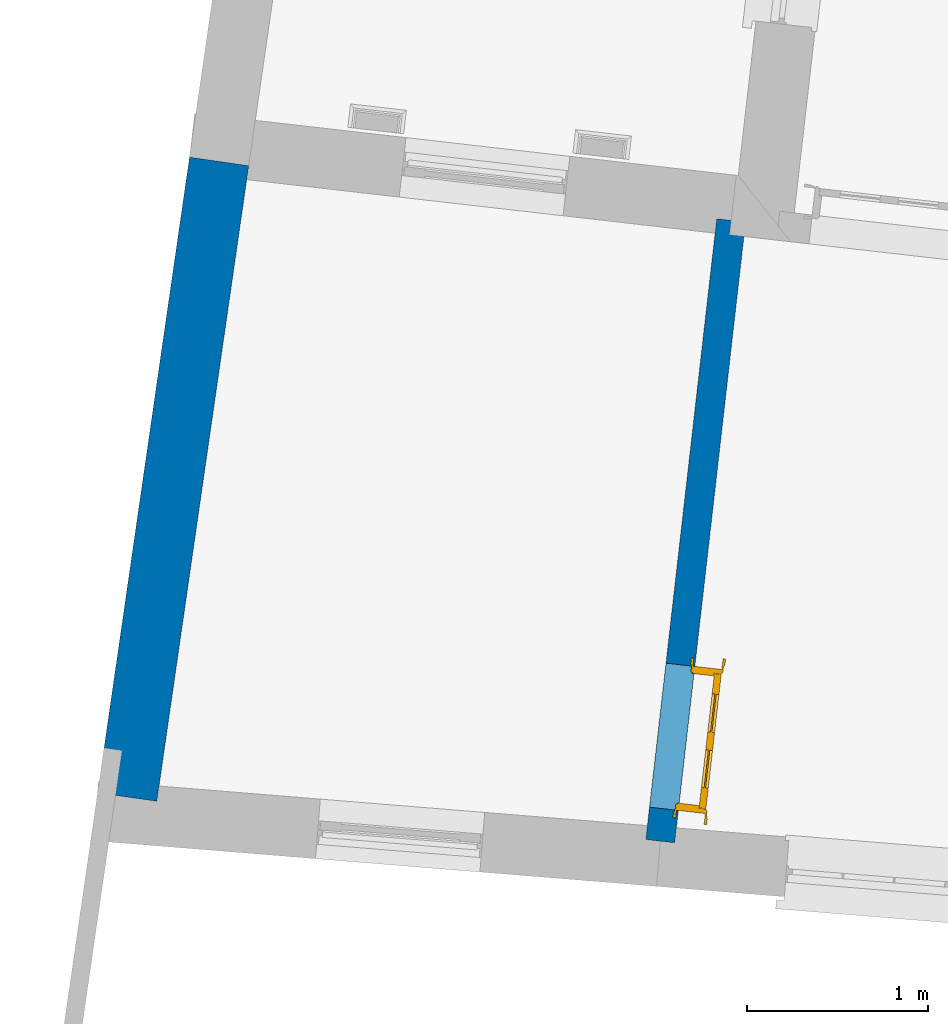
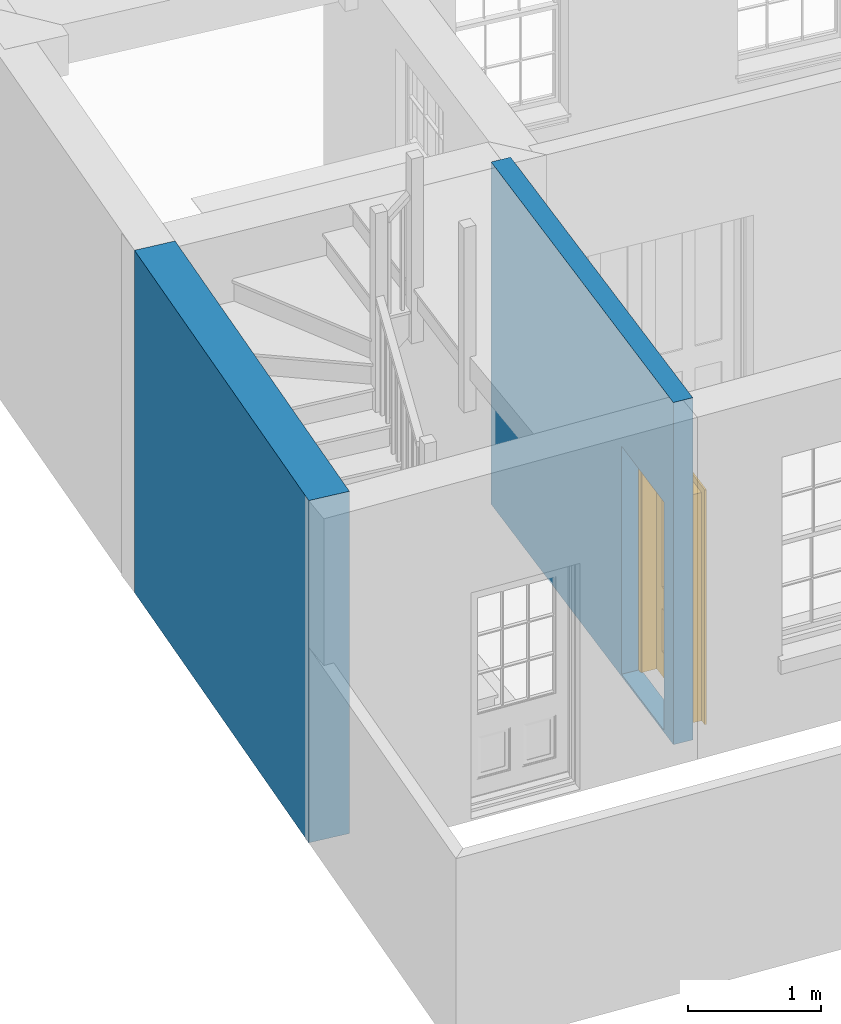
# One storey, part 4 of 8: 2 walls, 1 door, 1 opening.
"""IFC4 building model written with IfcOpenShell, lengths in metres."""

import ifcopenshell
import ifcopenshell.guid

model = None  # the IFC model being written
_history = None  # IfcOwnerHistory: only IFC2X3 demands one
_inside = {}  # id of a spatial element -> (the spatial element, [elements in it])
_under = {}  # id of a project, library or spatial element -> (it, [spatial elements below it])
_declared = {}  # id of a project -> (the project, [libraries it declares])
_typed = {}  # id of a type object -> (the type object, [elements of that type])
_made_of = {}  # id of a material, layer set ... -> (it, [elements and type objects made of it])


def new_model(schema):
    """Start an empty IFC model of exactly this schema.

    Asked for "IFC4X3", IfcOpenShell would pick the latest addendum, in which some entities
    have other attributes; the version numbers below select the first issue.
    IFC2X3 requires an IfcOwnerHistory on every rooted entity: one is made here for all.
    """
    global model, _history
    if schema == "IFC4X3":
        model = ifcopenshell.file(schema_version=(4, 3, 0, 0))
    else:
        model = ifcopenshell.file(schema=schema)
    _inside.clear()
    _under.clear()
    _declared.clear()
    _typed.clear()
    _made_of.clear()
    _history = None
    if model.schema == "IFC2X3":
        org = make("IfcOrganization", Name="unknown")
        user = make(
            "IfcPersonAndOrganization",
            ThePerson=make("IfcPerson", FamilyName="unknown"),
            TheOrganization=org,
        )
        app = make(
            "IfcApplication",
            ApplicationDeveloper=org,
            Version="unknown",
            ApplicationFullName="unknown",
            ApplicationIdentifier="unknown",
        )
        _history = make(
            "IfcOwnerHistory",
            OwningUser=user,
            OwningApplication=app,
            ChangeAction="ADDED",
            CreationDate=0,
        )
    return model


def make(cls, **values):
    """One entity of the class cls with the attributes given. An attribute that is None is left unset."""
    return model.create_entity(
        cls, **{name: value for name, value in values.items() if value is not None}
    )


def rooted(cls, **values):
    """An entity with a GlobalId (a new one), such as an element, a storey or a relation."""
    return make(cls, GlobalId=ifcopenshell.guid.new(), OwnerHistory=_history, **values)


def si_unit(unit_type, name, prefix=None):
    """IfcSIUnit, for example si_unit("LENGTHUNIT", "METRE", prefix="MILLI")."""
    return make("IfcSIUnit", UnitType=unit_type, Prefix=prefix, Name=name)


def assignment(units):
    """IfcUnitAssignment: the units of a project."""
    return None if units is None else make("IfcUnitAssignment", Units=units)


def point(xyz):
    """IfcCartesianPoint."""
    return None if xyz is None else make("IfcCartesianPoint", Coordinates=xyz)


def direction(xyz):
    """IfcDirection."""
    return None if xyz is None else make("IfcDirection", DirectionRatios=xyz)


def frame(location, z_axis=None, x_axis=None):
    """IfcAxis2Placement3D, a coordinate frame: its origin and axes. An axis left out is left unset."""
    return make(
        "IfcAxis2Placement3D",
        Location=point(location),
        Axis=direction(z_axis),
        RefDirection=direction(x_axis),
    )


def origin():
    """The frame at (0, 0, 0) with its axes left unset."""
    return frame((0.0, 0.0, 0.0))


def origin_with_axes():
    """The frame at (0, 0, 0) with the z axis (0, 0, 1) and the x axis (1, 0, 0) written out."""
    return frame((0.0, 0.0, 0.0), z_axis=(0.0, 0.0, 1.0), x_axis=(1.0, 0.0, 0.0))


def place(relative_to, where):
    """IfcLocalPlacement: puts the frame where relative to a parent placement (None: the world)."""
    return make(
        "IfcLocalPlacement", PlacementRelTo=relative_to, RelativePlacement=where
    )


def context(
    kind, dimensions, precision=None, world=None, true_north=None, identifier=None
):
    """IfcGeometricRepresentationContext, for example the 3D "Model" context."""
    return make(
        "IfcGeometricRepresentationContext",
        ContextIdentifier=identifier,
        ContextType=kind,
        CoordinateSpaceDimension=dimensions,
        Precision=precision,
        WorldCoordinateSystem=world,
        TrueNorth=true_north,
    )


def subcontext(parent, identifier, kind, view, scale=None):
    """IfcGeometricRepresentationSubContext, for example "Body" below "Model"."""
    return make(
        "IfcGeometricRepresentationSubContext",
        ContextIdentifier=identifier,
        ContextType=kind,
        ParentContext=parent,
        TargetScale=scale,
        TargetView=view,
    )


def project(units=None, contexts=None):
    """IfcProject with its units and contexts."""
    return rooted(
        "IfcProject",
        Name="project",
        RepresentationContexts=contexts,
        UnitsInContext=assignment(units),
    )


def spatial(cls, under=None, at=None, **own):
    """A site, building, storey or space (cls), placed at a placement, below another one or the project."""
    s = rooted(cls, ObjectPlacement=at, **own)
    if under is not None:
        _under.setdefault(under.id(), (under, []))[1].append(s)
    return s


def polyline(points):
    """IfcPolyline through the points."""
    return make("IfcPolyline", Points=[point(p) for p in points])


def outline(outer, holes=None, kind="AREA"):
    """IfcArbitraryClosedProfileDef: a profile drawn as a closed curve; with holes, ...WithVoids."""
    if holes is None:
        return make("IfcArbitraryClosedProfileDef", ProfileType=kind, OuterCurve=outer)
    return make(
        "IfcArbitraryProfileDefWithVoids",
        ProfileType=kind,
        OuterCurve=outer,
        InnerCurves=holes,
    )


def extrude(swept, where, along, depth):
    """IfcExtrudedAreaSolid: the profile swept, set in the frame where, extruded along a direction by depth."""
    return make(
        "IfcExtrudedAreaSolid",
        SweptArea=swept,
        Position=where,
        ExtrudedDirection=direction(along),
        Depth=depth,
    )


def faces_of(points, faces, orient=None, outer=None):
    """IfcFace entities. A face is a list of loops; a loop is a list of indices into points, from 0.

    orient and outer hold one flag for each loop. By default every Orientation is true, the
    first loop of a face is its IfcFaceOuterBound and the others are IfcFaceBound.
    """
    made = []
    for i, loops in enumerate(faces):
        bounds = []
        for j, loop in enumerate(loops):
            is_outer = j == 0 if outer is None else outer[i][j]
            bounds.append(
                make(
                    "IfcFaceOuterBound" if is_outer else "IfcFaceBound",
                    Bound=make("IfcPolyLoop", Polygon=[points[k] for k in loop]),
                    Orientation=True if orient is None else orient[i][j],
                )
            )
        made.append(make("IfcFace", Bounds=bounds))
    return made


def faceted_brep(points, faces, orient=None, outer=None, voids=None):
    """IfcFacetedBrep: a solid bounded by flat faces; with voids (closed shells), ...WithVoids."""
    shared = [point(p) for p in points]
    hull = make("IfcClosedShell", CfsFaces=faces_of(shared, faces, orient, outer))
    if voids is None:
        return make("IfcFacetedBrep", Outer=hull)
    return make(
        "IfcFacetedBrepWithVoids",
        Outer=hull,
        Voids=[
            make(cls, CfsFaces=faces_of(shared, fs, o, b)) for cls, fs, o, b in voids
        ],
    )


def shape(context_of_items, identifier, shape_type, items):
    """IfcShapeRepresentation: the items that make up one representation, for example the "Body"."""
    return make(
        "IfcShapeRepresentation",
        ContextOfItems=context_of_items,
        RepresentationIdentifier=identifier,
        RepresentationType=shape_type,
        Items=items,
    )


def source(mapping_origin, context_of_items, identifier, shape_type, items):
    """IfcRepresentationMap: a shape defined once, which mapped items show again and again."""
    return make(
        "IfcRepresentationMap",
        MappingOrigin=mapping_origin,
        MappedRepresentation=shape(context_of_items, identifier, shape_type, items),
    )


def transform(
    local_origin,
    x_axis=None,
    y_axis=None,
    z_axis=None,
    scale=None,
    scale2=None,
    scale3=None,
    uniform=True,
):
    """IfcCartesianTransformationOperator3D, or its non-uniform kind. x_axis, y_axis, z_axis: its Axis1, 2, 3."""
    if uniform:
        return make(
            "IfcCartesianTransformationOperator3D",
            Axis1=direction(x_axis),
            Axis2=direction(y_axis),
            LocalOrigin=point(local_origin),
            Scale=scale,
            Axis3=direction(z_axis),
        )
    return make(
        "IfcCartesianTransformationOperator3DnonUniform",
        Axis1=direction(x_axis),
        Axis2=direction(y_axis),
        LocalOrigin=point(local_origin),
        Scale=scale,
        Axis3=direction(z_axis),
        Scale2=scale2,
        Scale3=scale3,
    )


def mapped(mapping_source, mapping_target):
    """IfcMappedItem: shows the shape of a source again, moved by a transform."""
    return make(
        "IfcMappedItem", MappingSource=mapping_source, MappingTarget=mapping_target
    )


def material(Name=None, Category=None):
    """IfcMaterial."""
    return make("IfcMaterial", Name=Name, Category=Category)


def layer(
    of_material, thickness, ventilated=None, Name=None, Category=None, Priority=None
):
    """IfcMaterialLayer: one layer of a wall or slab, of a material (None: an air gap)."""
    return make(
        "IfcMaterialLayer",
        Material=of_material,
        LayerThickness=thickness,
        IsVentilated=ventilated,
        Name=Name,
        Category=Category,
        Priority=Priority,
    )


def layer_set(layers, Name=None):
    """IfcMaterialLayerSet."""
    return make("IfcMaterialLayerSet", MaterialLayers=layers, LayerSetName=Name)


def layer_usage(for_layer_set, set_direction, sense, offset, extent=None):
    """IfcMaterialLayerSetUsage: how a layer set lies in its element."""
    return make(
        "IfcMaterialLayerSetUsage",
        ForLayerSet=for_layer_set,
        LayerSetDirection=set_direction,
        DirectionSense=sense,
        OffsetFromReferenceLine=offset,
        ReferenceExtent=extent,
    )


def made_of(thing, what):
    """Note that an element or type object is made of a material, layer set ...; save() writes the relation."""
    if what is not None:
        _made_of.setdefault(what.id(), (what, []))[1].append(thing)
    return thing


def type_object(cls, material=None, **own):
    """A type object (cls), such as IfcWallType, which elements share."""
    return made_of(rooted(cls, **own), material)


def type_shapes(of_type, sources):
    """Give a type object the sources (RepresentationMaps) that its elements show as mapped items."""
    of_type.RepresentationMaps = sources


def element(
    cls,
    number,
    at=None,
    inside=None,
    cuts=None,
    type_object=None,
    material=None,
    context=None,
    identifier="Body",
    shape_type=None,
    held_by="IfcProductDefinitionShape",
    body=None,
    shapes=None,
    **own,
):
    """One element of the class cls, such as IfcWall. Its Tag is "e" and its number.

    at: its placement. inside: the storey or other place that contains it. cuts: it is an
    opening in that element (IfcRelVoidsElement). A single representation is given by context,
    identifier, shape_type and body (its items); several are given by shapes. held_by: the class
    of the entity that holds the representations. save() writes the other relations.
    """
    e = rooted(cls, Tag="e%d" % number, ObjectPlacement=at, **own)
    if body is not None:
        shapes = [shape(context, identifier, shape_type, body)]
    if shapes is not None:
        e.Representation = make(held_by, Representations=shapes)
    if inside is not None:
        _inside.setdefault(inside.id(), (inside, []))[1].append(e)
    if cuts is not None:
        rooted(
            "IfcRelVoidsElement", RelatingBuildingElement=cuts, RelatedOpeningElement=e
        )
    if type_object is not None:
        _typed.setdefault(type_object.id(), (type_object, []))[1].append(e)
    return made_of(e, material)


def fill(opening, filler):
    """IfcRelFillsElement: the door or window that sits in an opening."""
    return rooted(
        "IfcRelFillsElement",
        RelatingOpeningElement=opening,
        RelatedBuildingElement=filler,
    )


def aggregate(whole, parts):
    """IfcRelAggregates: a whole, such as a stair, and the parts it consists of."""
    return rooted("IfcRelAggregates", RelatingObject=whole, RelatedObjects=parts)


def save(model, path):
    """Write the relations noted so far, then the file.

    IfcRelAggregates (storeys below a building ...), IfcRelContainedInSpatialStructure (elements
    in a storey), IfcRelDefinesByType, IfcRelAssociatesMaterial and IfcRelDeclares: one each for
    every whole, place, type object, material and project.
    """
    for whole, parts in _under.values():
        aggregate(whole, parts)
    for where, things in _inside.values():
        rooted(
            "IfcRelContainedInSpatialStructure",
            RelatedElements=things,
            RelatingStructure=where,
        )
    for kind, things in _typed.values():
        rooted("IfcRelDefinesByType", RelatedObjects=things, RelatingType=kind)
    for what, things in _made_of.values():
        rooted("IfcRelAssociatesMaterial", RelatedObjects=things, RelatingMaterial=what)
    for by, libraries in _declared.values():
        rooted("IfcRelDeclares", RelatingContext=by, RelatedDefinitions=libraries)
    model.write(path)


model = new_model("IFC4")

# Units and contexts
model_context = context("Model", 3, world=origin_with_axes())
body_context = subcontext(model_context, "Body", "Model", "MODEL_VIEW")
ifc_project = project(units=[si_unit("PLANEANGLEUNIT", "RADIAN"), si_unit("MASSUNIT", "GRAM", prefix="KILO"), si_unit("FORCEUNIT", "NEWTON", prefix="KILO"), si_unit("LENGTHUNIT", "METRE"), si_unit("AREAUNIT", "SQUARE_METRE"), si_unit("VOLUMEUNIT", "CUBIC_METRE")], contexts=[model_context, model_context])

# Sites, building, storey
site_1_placement = place(None, origin_with_axes())
site_1 = spatial("IfcSite", under=ifc_project, at=site_1_placement, Name="Tamar")
site_2_placement = place(site_1_placement, origin_with_axes())
site_2 = spatial("IfcSite", under=site_1, at=site_2_placement, Name="Site plot-31", CompositionType="ELEMENT")
building_placement = place(None, origin_with_axes())
building = spatial("IfcBuilding", under=site_2, at=building_placement, Name="Building plot-31", CompositionType="ELEMENT")
storey_placement = place(None, frame((0.0, 0.0, 25.5), z_axis=(0.0, 0.0, 1.0), x_axis=(1.0, 0.0, 0.0)))
storey = spatial("IfcBuildingStorey", under=building, at=storey_placement, Name="plot-31 0", CompositionType="ELEMENT", Elevation=25.5)

# Wall
ifc_material_1 = material(Name="Masonry")
ifc_layer_1 = layer(ifc_material_1, 0.33, ventilated=False)
ifc_layer_set_1 = layer_set([ifc_layer_1], Name="party_0.08_0.25")
ifc_layer_usage_1 = layer_usage(ifc_layer_set_1, "AXIS2", "POSITIVE", -0.25)
wall_type_1 = type_object("IfcWallType", Name="party_0.08_0.25", PredefinedType="SOLIDWALL", material=ifc_layer_set_1)
wall_1_placement = place(storey_placement, frame((292.966784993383, 261.392838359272, 0.0), z_axis=(0.0, 0.0, 1.0), x_axis=(-0.143119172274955, -0.989705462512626, 0.0)))
element("IfcWall", 1, at=wall_1_placement, inside=storey, type_object=wall_type_1, material=ifc_layer_usage_1, Name="party", context=body_context, shape_type="SweptSolid", body=[
    extrude(outline(polyline([(1.44803760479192e-14, 0.0800000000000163), (-4.09251710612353e-15, -0.249999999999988), (3.54380607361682, -0.249999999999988), (3.54380607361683, 0.0800000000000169), (1.44803760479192e-14, 0.0800000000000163)])), origin_with_axes(), (0.0, 0.0, 1.0), 3.15),
])

# Wall, opening, door
ifc_material_2 = material(Name="Masonry")
ifc_layer_2 = layer(ifc_material_2, 0.16, ventilated=False)
ifc_layer_set_2 = layer_set([ifc_layer_2], Name="interior_0.08_0.08")
ifc_layer_usage_2 = layer_usage(ifc_layer_set_2, "AXIS2", "POSITIVE", -0.08)
wall_type_2 = type_object("IfcWallType", Name="interior_0.08_0.08", PredefinedType="SOLIDWALL", material=ifc_layer_set_2)
wall_2_placement = place(storey_placement, frame((295.708183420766, 261.079675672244, 0.0), z_axis=(0.0, 0.0, 1.0), x_axis=(-0.113496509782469, -0.993538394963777, 0.0)))
wall_2 = element("IfcWall", 2, at=wall_2_placement, inside=storey, type_object=wall_type_2, material=ifc_layer_usage_2, Name="interior", context=body_context, shape_type="SweptSolid", body=[
    extrude(outline(polyline([(9.93290253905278e-15, 0.0800000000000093), (-9.97822685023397e-15, -0.0800000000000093), (3.44802178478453, -0.0800000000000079), (3.44802178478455, 0.0800000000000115), (9.93290253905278e-15, 0.0800000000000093)])), origin_with_axes(), (0.0, 0.0, 1.0), 3.15),
])
opening_placement = place(wall_2_placement, frame((2.4680217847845, 0.0, 0.0199999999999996)))
opening = element("IfcOpeningElement", 3, at=opening_placement, cuts=wall_2, Name="My Opening", ObjectType="Opening", context=body_context, shape_type="SweptSolid", body=[
    extrude(outline(polyline([(0.0, -0.100000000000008), (0.800000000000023, -0.100000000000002), (0.80000000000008, 1.09999999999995), (5.55111512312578e-14, 1.09999999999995), (0.0, -0.100000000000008)])), origin_with_axes(), (0.0, 0.0, 1.0), 2.1),
])
door_type = type_object("IfcDoorType", Name="door_inside", OperationType="SINGLE_SWING_LEFT", PredefinedType="NOTDEFINED")
shared_shape = source(origin(), body_context, "Body", "Brep", [
    faceted_brep([(0.773, 0.33, 1.895), (0.66, 0.33, 1.895), (0.66, 0.33, 2.073), (0.773, 0.33, 2.073), (0.773, 0.33, 0.82), (0.66, 0.33, 0.82), (0.45, 0.33, 1.895), (0.45, 0.33, 2.073), (0.773, 0.33, 0.62), (0.66, 0.33, 0.62), (0.66, 0.315, 0.82), (0.66, 0.315, 1.895), (0.45, 0.315, 1.895), (0.35, 0.33, 1.895), (0.35, 0.33, 2.073), (0.773, 0.33, 0.225), (0.66, 0.33, 0.225), (0.45, 0.33, 0.62), (0.45, 0.33, 0.82), (0.45, 0.315, 0.82), (0.35, 0.33, 0.82), (0.14, 0.33, 2.073), (0.14, 0.33, 1.895), (0.773, 0.33, 0.0), (0.66, 0.33, 0.0), (0.66, 0.315, 0.225), (0.66, 0.315, 0.62), (0.45, 0.315, 0.62), (0.35, 0.33, 0.62), (0.35, 0.315, 0.82), (0.35, 0.315, 1.895), (0.14, 0.315, 1.895), (0.027, 0.33, 2.073), (0.027, 0.33, 1.895), (0.773, 0.292, 0.0), (0.66, 0.292, 0.0), (0.45, 0.33, 0.0), (0.45, 0.33, 0.225), (0.45, 0.315, 0.225), (0.35, 0.33, 0.225), (0.14, 0.33, 0.82), (0.14, 0.33, 0.62), (0.14, 0.315, 0.82), (0.027, 0.33, 0.82), (0.773, 0.292, 0.225), (0.66, 0.292, 0.225), (0.45, 0.292, 0.0), (0.35, 0.33, 0.0), (0.35, 0.315, 0.225), (0.35, 0.315, 0.62), (0.14, 0.315, 0.62), (0.027, 0.33, 0.62), (0.773, 0.292, 0.62), (0.66, 0.292, 0.62), (0.45, 0.292, 0.225), (0.35, 0.292, 0.0), (0.14, 0.33, 0.225), (0.14, 0.33, 0.0), (0.14, 0.315, 0.225), (0.027, 0.33, 0.225), (0.773, 0.292, 0.82), (0.66, 0.292, 0.82), (0.66, 0.307, 0.62), (0.66, 0.307, 0.225), (0.45, 0.307, 0.225), (0.35, 0.292, 0.225), (0.14, 0.292, 0.0), (0.027, 0.33, 0.0), (0.773, 0.292, 1.895), (0.66, 0.292, 1.895), (0.45, 0.292, 0.62), (0.45, 0.292, 0.82), (0.45, 0.307, 0.62), (0.35, 0.292, 0.62), (0.14, 0.292, 0.225), (0.027, 0.292, 0.0), (0.773, 0.292, 2.073), (0.66, 0.292, 2.073), (0.66, 0.307, 1.895), (0.66, 0.307, 0.82), (0.45, 0.307, 0.82), (0.35, 0.292, 0.82), (0.35, 0.307, 0.62), (0.35, 0.307, 0.225), (0.14, 0.307, 0.225), (0.027, 0.292, 0.225), (0.45, 0.292, 1.895), (0.45, 0.292, 2.073), (0.45, 0.307, 1.895), (0.35, 0.292, 1.895), (0.14, 0.292, 0.82), (0.14, 0.292, 0.62), (0.14, 0.307, 0.62), (0.027, 0.292, 0.62), (0.35, 0.292, 2.073), (0.35, 0.307, 1.895), (0.35, 0.307, 0.82), (0.14, 0.307, 0.82), (0.027, 0.292, 0.82), (0.14, 0.292, 2.073), (0.14, 0.292, 1.895), (0.14, 0.307, 1.895), (0.027, 0.292, 1.895), (0.027, 0.292, 2.073), (0.02, 0.335, 0.0), (0.005, 0.34, 0.0), (0.005, 0.34, 2.095), (0.02, 0.335, 2.08), (0.02, 0.33, 0.0), (0.0, 0.335, 0.0), (0.0, 0.335, 2.1), (0.795, 0.34, 2.095), (0.78, 0.335, 2.08), (0.02, 0.33, 2.08), (0.0, 0.33, 0.0), (-0.032, 0.345, 0.0), (-0.032, 0.345, 2.132), (0.8, 0.335, 2.1), (0.795, 0.34, 0.0), (0.78, 0.335, 0.0), (0.78, 0.33, 2.08), (0.04, 0.29, 0.0), (0.025, 0.29, 0.0), (0.025, 0.29, 2.075), (0.04, 0.29, 2.06), (-0.04, 0.34, 0.0), (-0.04, 0.34, 2.14), (0.832, 0.345, 2.132), (0.8, 0.335, 0.0), (0.78, 0.33, 0.0), (0.8, 0.33, 0.0), (0.86, 0.33, 0.0), (0.86, 0.33, 2.16), (0.8, 0.33, 2.1), (-0.06, 0.33, 2.16), (0.0, 0.33, 2.1), (-0.06, 0.33, 0.0), (-0.04, 0.345, 0.0), (-0.04, 0.345, 2.14), (0.84, 0.34, 2.14), (0.832, 0.345, 0.0), (0.84, 0.34, 0.0), (0.86, 0.345, 0.0), (0.86, 0.345, 2.16), (-0.06, 0.345, 2.16), (-0.06, 0.345, 0.0), (0.84, 0.345, 0.0), (0.84, 0.345, 2.14), (-0.025, 0.155, 0.0), (-0.025, 0.16, 0.0), (-0.025, 0.16, 2.125), (-0.025, 0.155, 2.125), (-0.017, 0.155, 0.0), (-0.017, 0.155, 2.117), (0.825, 0.16, 2.125), (0.825, 0.155, 2.125), (0.825, 0.155, 0.0), (0.845, 0.155, 0.0), (-0.045, 0.155, 2.145), (-0.045, 0.155, 0.0), (0.845, 0.155, 2.145), (0.015, 0.165, 0.0), (0.015, 0.165, 2.085), (0.817, 0.155, 2.117), (0.825, 0.16, 0.0), (0.845, 0.17, 0.0), (0.845, 0.17, 2.145), (-0.045, 0.17, 2.145), (-0.045, 0.17, 0.0), (0.02, 0.16, 0.0), (0.02, 0.16, 2.08), (0.785, 0.165, 2.085), (0.817, 0.155, 0.0), (0.8, 0.17, 0.0), (0.8, 0.17, 2.1), (0.0, 0.17, 2.1), (0.0, 0.17, 0.0), (0.035, 0.165, 0.0), (0.035, 0.165, 2.065), (0.78, 0.16, 2.08), (0.785, 0.165, 0.0), (0.775, 0.29, 2.075), (0.76, 0.29, 2.06), (0.035, 0.17, 2.065), (0.035, 0.17, 0.0), (0.765, 0.165, 2.065), (0.78, 0.16, 0.0), (0.765, 0.17, 0.0), (0.765, 0.17, 2.065), (0.765, 0.165, 0.0), (0.04, 0.17, 2.06), (0.04, 0.17, 0.0), (0.76, 0.17, 2.06), (0.76, 0.17, 0.0), (0.76, 0.29, 0.0), (0.775, 0.29, 0.0), (0.025, 0.33, 0.0), (0.025, 0.33, 2.075), (0.775, 0.33, 0.0), (0.775, 0.33, 2.075)], [[[0, 1, 2, 3]], [[1, 0, 4, 5]], [[1, 6, 7, 2]], [[8, 9, 5, 4]], [[1, 5, 10, 11]], [[6, 1, 11, 12]], [[6, 13, 14, 7]], [[15, 16, 9, 8]], [[9, 17, 18, 5]], [[5, 18, 19, 10]], [[10, 19, 12, 11]], [[18, 6, 12, 19]], [[18, 20, 13, 6]], [[21, 14, 13, 22]], [[23, 24, 16, 15]], [[9, 16, 25, 26]], [[17, 9, 26, 27]], [[17, 28, 20, 18]], [[13, 20, 29, 30]], [[22, 13, 30, 31]], [[32, 21, 22, 33]], [[34, 35, 24, 23]], [[24, 36, 37, 16]], [[16, 37, 38, 25]], [[25, 38, 27, 26]], [[37, 17, 27, 38]], [[37, 39, 28, 17]], [[40, 20, 28, 41]], [[20, 40, 42, 29]], [[31, 30, 29, 42]], [[40, 22, 31, 42]], [[33, 22, 40, 43]], [[35, 34, 44, 45]], [[35, 46, 36, 24]], [[36, 47, 39, 37]], [[28, 39, 48, 49]], [[41, 28, 49, 50]], [[43, 40, 41, 51]], [[45, 44, 52, 53]], [[46, 35, 45, 54]], [[46, 55, 47, 36]], [[56, 39, 47, 57]], [[39, 56, 58, 48]], [[50, 49, 48, 58]], [[56, 41, 50, 58]], [[51, 41, 56, 59]], [[53, 52, 60, 61]], [[45, 53, 62, 63]], [[54, 45, 63, 64]], [[55, 46, 54, 65]], [[55, 66, 57, 47]], [[59, 56, 57, 67]], [[61, 60, 68, 69]], [[70, 53, 61, 71]], [[53, 70, 72, 62]], [[72, 64, 63, 62]], [[70, 54, 64, 72]], [[65, 54, 70, 73]], [[65, 74, 66, 55]], [[67, 57, 66, 75]], [[69, 68, 76, 77]], [[61, 69, 78, 79]], [[71, 61, 79, 80]], [[73, 70, 71, 81]], [[65, 73, 82, 83]], [[74, 65, 83, 84]], [[74, 85, 75, 66]], [[86, 69, 77, 87]], [[69, 86, 88, 78]], [[88, 80, 79, 78]], [[86, 71, 80, 88]], [[81, 71, 86, 89]], [[73, 81, 90, 91]], [[73, 91, 92, 82]], [[83, 82, 92, 84]], [[91, 74, 84, 92]], [[91, 93, 85, 74]], [[89, 86, 87, 94]], [[81, 89, 95, 96]], [[90, 81, 96, 97]], [[90, 98, 93, 91]], [[94, 99, 100, 89]], [[89, 100, 101, 95]], [[101, 97, 96, 95]], [[100, 90, 97, 101]], [[100, 102, 98, 90]], [[99, 103, 102, 100]], [[32, 103, 99, 21]], [[102, 103, 32, 33]], [[98, 102, 33, 43]], [[21, 99, 94, 14]], [[94, 87, 7, 14]], [[7, 87, 77, 2]], [[76, 3, 2, 77]], [[43, 51, 93, 98]], [[51, 59, 85, 93]], [[67, 75, 85, 59]], [[34, 23, 15, 44]], [[44, 15, 8, 52]], [[52, 8, 4, 60]], [[0, 68, 60, 4]], [[0, 3, 76, 68]], [[104, 105, 106, 107]], [[104, 108, 109, 105]], [[105, 109, 110, 106]], [[107, 106, 111, 112]], [[107, 113, 108, 104]], [[114, 109, 108]], [[109, 115, 116, 110]], [[106, 110, 117, 111]], [[112, 111, 118, 119]], [[113, 107, 112, 120]], [[121, 122, 123, 124]], [[115, 109, 114, 125]], [[115, 125, 126, 116]], [[110, 116, 127, 117]], [[111, 117, 128, 118]], [[118, 128, 129, 119]], [[120, 112, 119, 129]], [[130, 129, 128]], [[130, 131, 132, 133]], [[133, 132, 134, 135]], [[135, 134, 136, 114]], [[136, 125, 114]], [[125, 137, 138, 126]], [[116, 126, 139, 127]], [[117, 127, 140, 128]], [[141, 130, 128, 140]], [[131, 130, 141]], [[131, 142, 143, 132]], [[132, 143, 144, 134]], [[134, 144, 145, 136]], [[137, 125, 136, 145]], [[143, 142, 146]], [[143, 146, 147]], [[137, 145, 144]], [[143, 147, 138]], [[138, 137, 144]], [[143, 138, 144]], [[126, 138, 147, 139]], [[127, 139, 141, 140]], [[142, 131, 141, 146]], [[139, 147, 146, 141]], [[148, 149, 150, 151]], [[149, 152, 153, 150]], [[151, 150, 154, 155]], [[155, 156, 157]], [[158, 159, 148]], [[158, 148, 151]], [[155, 157, 160]], [[158, 151, 155]], [[155, 160, 158]], [[152, 161, 162, 153]], [[150, 153, 163, 154]], [[155, 154, 164, 156]], [[156, 164, 165, 157]], [[157, 165, 166, 160]], [[160, 166, 167, 158]], [[158, 167, 168, 159]], [[161, 169, 170, 162]], [[153, 162, 171, 163]], [[154, 163, 172, 164]], [[165, 164, 173]], [[165, 173, 174, 166]], [[166, 174, 175, 167]], [[167, 175, 176, 168]], [[169, 177, 178, 170]], [[162, 170, 179, 171]], [[163, 171, 180, 172]], [[172, 180, 173, 164]], [[124, 123, 181, 182]], [[183, 178, 177, 184]], [[170, 178, 185, 179]], [[171, 179, 186, 180]], [[187, 173, 180]], [[185, 188, 187, 189]], [[188, 185, 178, 183]], [[179, 185, 189, 186]], [[189, 187, 180, 186]], [[190, 183, 184, 191]], [[192, 188, 183, 190]], [[191, 184, 122, 121]], [[124, 190, 191, 121]], [[193, 187, 188, 192]], [[182, 192, 190, 124]], [[184, 176, 122]], [[194, 195, 187, 193]], [[192, 182, 194, 193]], [[161, 176, 184]], [[114, 108, 122, 176]], [[173, 187, 195]], [[152, 149, 176, 161]], [[169, 161, 184, 177]], [[196, 122, 108]], [[176, 175, 135, 114]], [[173, 195, 129, 130]], [[176, 149, 168]], [[123, 122, 196, 197]], [[196, 108, 113, 197]], [[175, 174, 133, 135]], [[198, 129, 195]], [[133, 174, 173, 130]], [[159, 168, 149, 148]], [[181, 123, 197, 199]], [[197, 113, 120, 199]], [[199, 120, 129, 198]], [[195, 181, 199, 198]], [[195, 194, 182, 181]]]),
])
type_shapes(door_type, [shared_shape])
door_placement = place(storey_placement, frame((295.328717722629, 258.638950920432, 0.0199999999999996), z_axis=(0.0, 0.0, 1.0), x_axis=(-0.0907972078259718, -0.794830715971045, 0.0)))
door = element("IfcDoor", 4, at=door_placement, inside=storey, type_object=door_type, Name="living inside door", OverallHeight=2.1, OverallWidth=0.8, context=body_context, shape_type="MappedRepresentation", body=[
    mapped(shared_shape, transform((0.0, 0.0, 0.0), scale=1.0)),
])
fill(opening, door)

save(model, "model.ifc")
